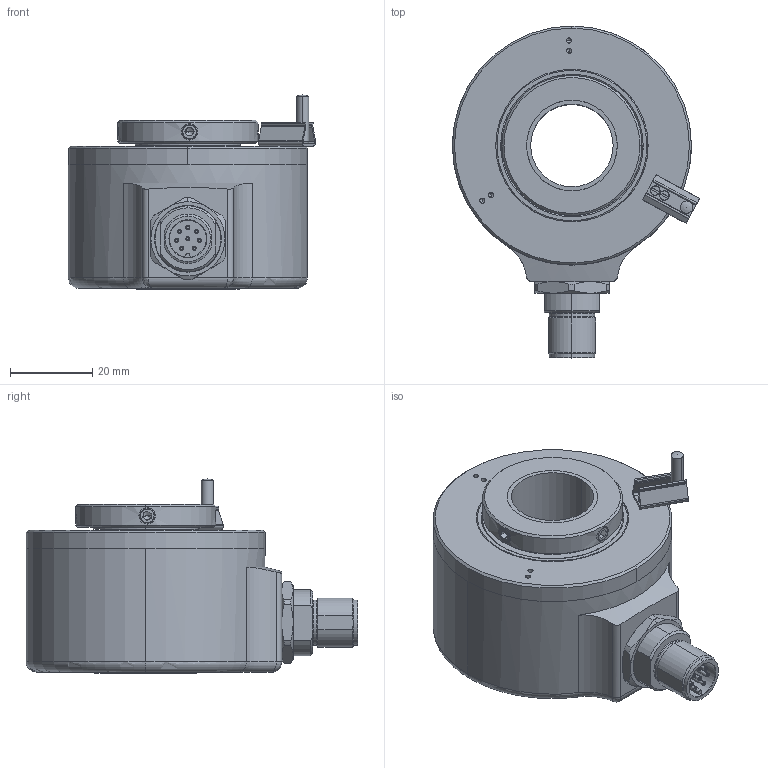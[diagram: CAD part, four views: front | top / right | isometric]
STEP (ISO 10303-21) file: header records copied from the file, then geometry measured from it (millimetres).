
FILE_DESCRIPTION (( 'STEP AP203' ), '1' );
FILE_NAME ('8.5821.1CXE.XXXX.STEP', '2011-12-09T07:18:41', ( 'Hodot' ), ( 'Kuebler' ), 'SwSTEP 2.0', 'SolidWorks 2009', '' );
FILE_SCHEMA (( 'CONFIG_CONTROL_DESIGN' ));
Length unit declared in the file: millimetre
Products named in the file (1): 8.5821.1CXE.XXXX
Bounding box: 59.98 x 80.5 x 47.09 mm (x, y, z)
Volume: 53140 mm3; surface area: 45759.6 mm2
Topology: 26 solids, 26 shells, 845 faces, 2006 edges, 1271 vertices
Faces by surface type: plane 356, cylinder 281, cone 136, torus 67, bspline 4, sphere 1
Entity records: 36019 total; most frequent: CARTESIAN_POINT 16178, DIRECTION 4289, ORIENTED_EDGE 3946, EDGE_CURVE 1973, AXIS2_PLACEMENT_3D 1660, VERTEX_POINT 1269, EDGE_LOOP 982, VECTOR 969
